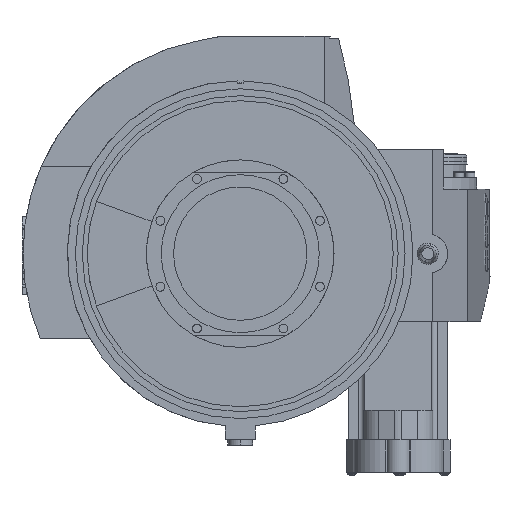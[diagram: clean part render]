
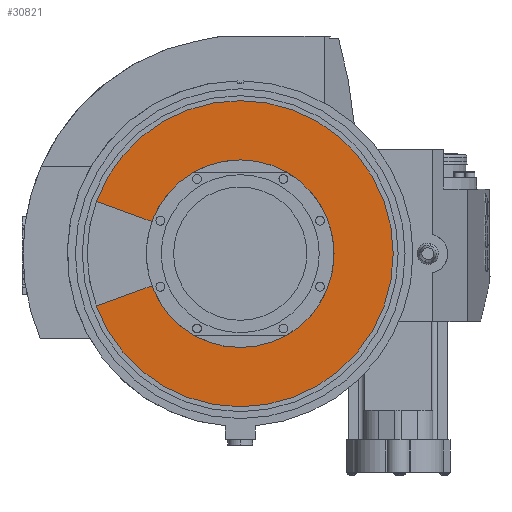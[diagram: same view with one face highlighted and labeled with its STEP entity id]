
A CAD part, front view. The second image highlights one B-rep face of the part: STEP entity #30821.
In plain terms, the highlighted planar face has unit normal (0, -1, 0).
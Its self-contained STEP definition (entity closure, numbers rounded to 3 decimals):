
#5727 = CARTESIAN_POINT ( 'NONE',  ( 0., 227., 0. ) ) ;
#5755 = DIRECTION ( 'NONE',  ( 0., 1., 0. ) ) ;
#5756 = DIRECTION ( 'NONE',  ( 1., 0., 0. ) ) ;
#5935 = CARTESIAN_POINT ( 'NONE',  ( 0., 227., 0. ) ) ;
#5936 = DIRECTION ( 'NONE',  ( 0., 1., 0. ) ) ;
#5937 = DIRECTION ( 'NONE',  ( 1., 0., 0. ) ) ;
#5944 = CARTESIAN_POINT ( 'NONE',  ( 0., 227., 0. ) ) ;
#5946 = DIRECTION ( 'NONE',  ( 0., 1., 0. ) ) ;
#5947 = DIRECTION ( 'NONE',  ( 1., 0., 0. ) ) ;
#5973 = CARTESIAN_POINT ( 'NONE',  ( 0., 227., 0. ) ) ;
#5976 = DIRECTION ( 'NONE',  ( 0., 1., 0. ) ) ;
#5977 = DIRECTION ( 'NONE',  ( 1., 0., 0. ) ) ;
#5989 = CARTESIAN_POINT ( 'NONE',  ( 0., 227., 0. ) ) ;
#5997 = DIRECTION ( 'NONE',  ( 0., 1., 0. ) ) ;
#5998 = DIRECTION ( 'NONE',  ( 1., 0., 0. ) ) ;
#5999 = CARTESIAN_POINT ( 'NONE',  ( -277.992, 227., -101.181 ) ) ;
#6000 = DIRECTION ( 'NONE',  ( 0.94, 0., 0.342 ) ) ;
#6001 = CARTESIAN_POINT ( 'NONE',  ( -278.397, 227., 101.328 ) ) ;
#6002 = DIRECTION ( 'NONE',  ( -0.94, 0., 0.342 ) ) ;
#25254 = ORIENTED_EDGE ( 'NONE', *, *, #30320, .T. ) ;
#25256 = ORIENTED_EDGE ( 'NONE', *, *, #30336, .T. ) ;
#25259 = ORIENTED_EDGE ( 'NONE', *, *, #30324, .T. ) ;
#25261 = ORIENTED_EDGE ( 'NONE', *, *, #30346, .F. ) ;
#25263 = ORIENTED_EDGE ( 'NONE', *, *, #30248, .F. ) ;
#25265 = ORIENTED_EDGE ( 'NONE', *, *, #30344, .F. ) ;
#25267 = ORIENTED_EDGE ( 'NONE', *, *, #30345, .F. ) ;
#30248 = EDGE_CURVE ( 'NONE', #35736, #35735, #32334, .T. ) ;
#30320 = EDGE_CURVE ( 'NONE', #36358, #36357, #32443, .T. ) ;
#30324 = EDGE_CURVE ( 'NONE', #36349, #36350, #32450, .T. ) ;
#30336 = EDGE_CURVE ( 'NONE', #36350, #36358, #32465, .T. ) ;
#30344 = EDGE_CURVE ( 'NONE', #35735, #36079, #32477, .T. ) ;
#30345 = EDGE_CURVE ( 'NONE', #36079, #36357, #32468, .T. ) ;
#30346 = EDGE_CURVE ( 'NONE', #36349, #35736, #32478, .T. ) ;
#30821 = ADVANCED_FACE ( 'NONE', ( #36859 ), #37293, .T. ) ;
#32334 = CIRCLE ( 'NONE', #45418, 155. ) ;
#32443 = CIRCLE ( 'NONE', #45462, 95. ) ;
#32450 = CIRCLE ( 'NONE', #45461, 95. ) ;
#32465 = CIRCLE ( 'NONE', #45468, 95. ) ;
#32468 = LINE ( 'NONE', #5999, #32475 ) ;
#32475 = VECTOR ( 'NONE', #6000, 1000. ) ;
#32477 = CIRCLE ( 'NONE', #45471, 155. ) ;
#32478 = LINE ( 'NONE', #6001, #32479 ) ;
#32479 = VECTOR ( 'NONE', #6002, 1000. ) ;
#35735 = VERTEX_POINT ( 'NONE', #41122 ) ;
#35736 = VERTEX_POINT ( 'NONE', #41123 ) ;
#36079 = VERTEX_POINT ( 'NONE', #41479 ) ;
#36349 = VERTEX_POINT ( 'NONE', #41754 ) ;
#36350 = VERTEX_POINT ( 'NONE', #41755 ) ;
#36357 = VERTEX_POINT ( 'NONE', #41762 ) ;
#36358 = VERTEX_POINT ( 'NONE', #41763 ) ;
#36859 = FACE_OUTER_BOUND ( 'NONE', #51173, .T. ) ;
#37292 = CARTESIAN_POINT ( 'NONE',  ( -155., 227., 0. ) ) ;
#37293 = PLANE ( 'NONE',  #46284 ) ;
#37303 = DIRECTION ( 'NONE',  ( 0., -1., 0. ) ) ;
#37304 = DIRECTION ( 'NONE',  ( -1., 0., 0. ) ) ;
#41122 = CARTESIAN_POINT ( 'NONE',  ( 155., 227., 0. ) ) ;
#41123 = CARTESIAN_POINT ( 'NONE',  ( -145.652, 227., 53.013 ) ) ;
#41479 = CARTESIAN_POINT ( 'NONE',  ( -145.652, 227., -53.013 ) ) ;
#41754 = CARTESIAN_POINT ( 'NONE',  ( -89.271, 227., 32.492 ) ) ;
#41755 = CARTESIAN_POINT ( 'NONE',  ( 0., 227., 95. ) ) ;
#41762 = CARTESIAN_POINT ( 'NONE',  ( -89.271, 227., -32.492 ) ) ;
#41763 = CARTESIAN_POINT ( 'NONE',  ( 0., 227., -95. ) ) ;
#45418 = AXIS2_PLACEMENT_3D ( 'NONE', #5727, #5755, #5756 ) ;
#45461 = AXIS2_PLACEMENT_3D ( 'NONE', #5944, #5946, #5947 ) ;
#45462 = AXIS2_PLACEMENT_3D ( 'NONE', #5935, #5936, #5937 ) ;
#45468 = AXIS2_PLACEMENT_3D ( 'NONE', #5973, #5976, #5977 ) ;
#45471 = AXIS2_PLACEMENT_3D ( 'NONE', #5989, #5997, #5998 ) ;
#46284 = AXIS2_PLACEMENT_3D ( 'NONE', #37292, #37303, #37304 ) ;
#51173 = EDGE_LOOP ( 'NONE', ( #25267, #25265, #25263, #25261, #25259, #25256, #25254 ) ) ;
